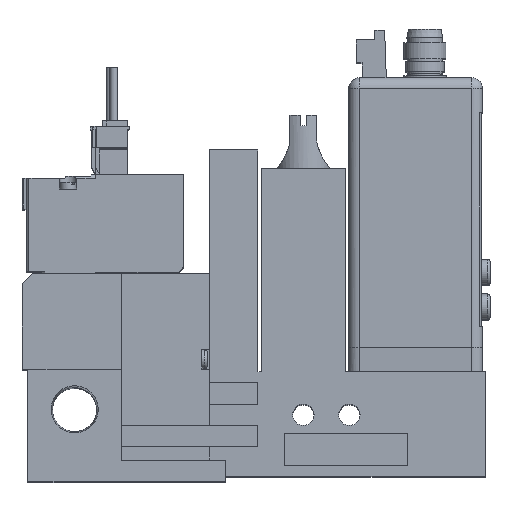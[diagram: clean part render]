
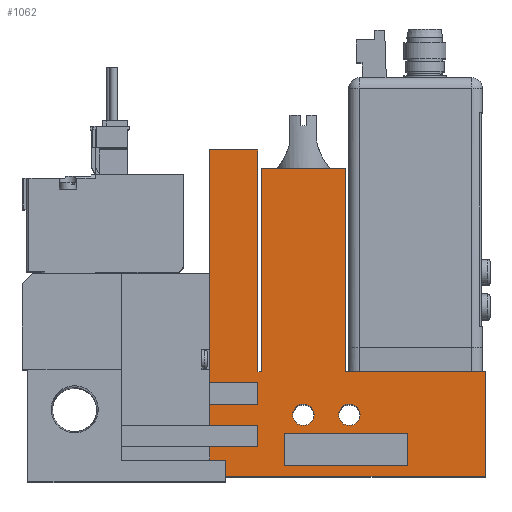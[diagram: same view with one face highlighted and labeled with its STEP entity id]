
A CAD part, top view. The second image highlights one B-rep face of the part: STEP entity #1062.
In plain terms, the highlighted planar face has unit normal (0, 0, 1).
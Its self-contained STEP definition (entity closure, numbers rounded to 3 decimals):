
#1062=ADVANCED_FACE('',(#4292,#4293,#4294,#4295),#4296,.T.);
#4292=FACE_OUTER_BOUND('',#10941,.T.);
#4293=FACE_BOUND('',#10942,.T.);
#4294=FACE_BOUND('',#10943,.T.);
#4295=FACE_BOUND('',#10944,.T.);
#4296=PLANE('',#10945);
#10941=EDGE_LOOP('',(#19580,#19581,#19582,#19583,#19584,#19585,#19586,#19587,#19588,#19589,#19590,#19591,#19592,#19593,#19594,#19595,#19596,#19597));
#10942=EDGE_LOOP('',(#19598,#19599,#19600,#19601));
#10943=EDGE_LOOP('',(#19602));
#10944=EDGE_LOOP('',(#19603));
#10945=AXIS2_PLACEMENT_3D('',#19604,#19605,#19606);
#19580=ORIENTED_EDGE('',*,*,#40541,.T.);
#19581=ORIENTED_EDGE('',*,*,#40665,.T.);
#19582=ORIENTED_EDGE('',*,*,#40639,.T.);
#19583=ORIENTED_EDGE('',*,*,#40666,.T.);
#19584=ORIENTED_EDGE('',*,*,#40613,.T.);
#19585=ORIENTED_EDGE('',*,*,#40649,.T.);
#19586=ORIENTED_EDGE('',*,*,#40476,.T.);
#19587=ORIENTED_EDGE('',*,*,#40656,.T.);
#19588=ORIENTED_EDGE('',*,*,#40557,.T.);
#19589=ORIENTED_EDGE('',*,*,#40514,.T.);
#19590=ORIENTED_EDGE('',*,*,#40622,.T.);
#19591=ORIENTED_EDGE('',*,*,#40624,.T.);
#19592=ORIENTED_EDGE('',*,*,#40577,.T.);
#19593=ORIENTED_EDGE('',*,*,#40574,.T.);
#19594=ORIENTED_EDGE('',*,*,#40581,.T.);
#19595=ORIENTED_EDGE('',*,*,#40627,.T.);
#19596=ORIENTED_EDGE('',*,*,#40667,.T.);
#19597=ORIENTED_EDGE('',*,*,#40644,.T.);
#19598=ORIENTED_EDGE('',*,*,#40584,.T.);
#19599=ORIENTED_EDGE('',*,*,#40546,.T.);
#19600=ORIENTED_EDGE('',*,*,#40659,.T.);
#19601=ORIENTED_EDGE('',*,*,#40619,.T.);
#19602=ORIENTED_EDGE('',*,*,#40616,.T.);
#19603=ORIENTED_EDGE('',*,*,#40551,.T.);
#19604=CARTESIAN_POINT('',(0.0,0.0,10.0));
#19605=DIRECTION('',(0.0,0.0,1.0));
#19606=DIRECTION('',(1.0,0.0,0.0));
#40476=EDGE_CURVE('',#48894,#48899,#48901,.T.);
#40514=EDGE_CURVE('',#48973,#48971,#48974,.T.);
#40541=EDGE_CURVE('',#49025,#49023,#49026,.T.);
#40546=EDGE_CURVE('',#49028,#49033,#49035,.T.);
#40551=EDGE_CURVE('',#49043,#49043,#49044,.T.);
#40557=EDGE_CURVE('',#49051,#48973,#49054,.T.);
#40574=EDGE_CURVE('',#49082,#49080,#49083,.T.);
#40577=EDGE_CURVE('',#49087,#49082,#49088,.T.);
#40581=EDGE_CURVE('',#49080,#49092,#49094,.T.);
#40584=EDGE_CURVE('',#49095,#49028,#49099,.T.);
#40613=EDGE_CURVE('',#49146,#49144,#49147,.T.);
#40616=EDGE_CURVE('',#49151,#49151,#49152,.T.);
#40619=EDGE_CURVE('',#49153,#49095,#49157,.T.);
#40622=EDGE_CURVE('',#48971,#49160,#49162,.T.);
#40624=EDGE_CURVE('',#49160,#49087,#49164,.T.);
#40627=EDGE_CURVE('',#49092,#49167,#49169,.T.);
#40639=EDGE_CURVE('',#49183,#49185,#49187,.T.);
#40644=EDGE_CURVE('',#49195,#49025,#49196,.T.);
#40649=EDGE_CURVE('',#49144,#48894,#49203,.T.);
#40656=EDGE_CURVE('',#48899,#49051,#49212,.T.);
#40659=EDGE_CURVE('',#49033,#49153,#49215,.T.);
#40665=EDGE_CURVE('',#49023,#49183,#49223,.T.);
#40666=EDGE_CURVE('',#49185,#49146,#49224,.T.);
#40667=EDGE_CURVE('',#49167,#49195,#49225,.T.);
#48894=VERTEX_POINT('',#61433);
#48899=VERTEX_POINT('',#61440);
#48901=LINE('',#61443,#61444);
#48971=VERTEX_POINT('',#61544);
#48973=VERTEX_POINT('',#61547);
#48974=LINE('',#61548,#61549);
#49023=VERTEX_POINT('',#61623);
#49025=VERTEX_POINT('',#61626);
#49026=LINE('',#61627,#61628);
#49028=VERTEX_POINT('',#61631);
#49033=VERTEX_POINT('',#61638);
#49035=LINE('',#61641,#61642);
#49043=VERTEX_POINT('',#61652);
#49044=CIRCLE('',#61653,2.0);
#49051=VERTEX_POINT('',#61663);
#49054=LINE('',#61668,#61669);
#49080=VERTEX_POINT('',#61728);
#49082=VERTEX_POINT('',#61731);
#49083=LINE('',#61732,#61733);
#49087=VERTEX_POINT('',#61739);
#49088=LINE('',#61740,#61741);
#49092=VERTEX_POINT('',#61747);
#49094=LINE('',#61750,#61751);
#49095=VERTEX_POINT('',#61752);
#49099=LINE('',#61758,#61759);
#49144=VERTEX_POINT('',#61823);
#49146=VERTEX_POINT('',#61826);
#49147=LINE('',#61827,#61828);
#49151=VERTEX_POINT('',#61833);
#49152=CIRCLE('',#61834,2.0);
#49153=VERTEX_POINT('',#61835);
#49157=LINE('',#61841,#61842);
#49160=VERTEX_POINT('',#61846);
#49162=LINE('',#61849,#61850);
#49164=LINE('',#61853,#61854);
#49167=VERTEX_POINT('',#61858);
#49169=LINE('',#61861,#61862);
#49183=VERTEX_POINT('',#61885);
#49185=VERTEX_POINT('',#61888);
#49187=LINE('',#61891,#61892);
#49195=VERTEX_POINT('',#61903);
#49196=LINE('',#61904,#61905);
#49203=LINE('',#61916,#61917);
#49212=LINE('',#61932,#61933);
#49215=LINE('',#61938,#61939);
#49223=LINE('',#61952,#61953);
#49224=LINE('',#61954,#61955);
#49225=LINE('',#61956,#61957);
#61433=CARTESIAN_POINT('',(44.1,9.5,10.0));
#61440=CARTESIAN_POINT('',(44.1,5.5,10.0));
#61443=CARTESIAN_POINT('',(44.1,0.0,10.0));
#61444=VECTOR('',#79116,1.0);
#61544=CARTESIAN_POINT('',(86.6,0.0,10.0));
#61547=CARTESIAN_POINT('',(35.1,0.0,10.0));
#61548=CARTESIAN_POINT('',(18.6,0.0,10.0));
#61549=VECTOR('',#79166,1.0);
#61623=CARTESIAN_POINT('',(35.1,17.5,10.0));
#61626=CARTESIAN_POINT('',(35.1,61.0,10.0));
#61627=CARTESIAN_POINT('',(35.1,61.0,10.0));
#61628=VECTOR('',#79193,1.0);
#61631=CARTESIAN_POINT('',(49.1,8.0,10.0));
#61638=CARTESIAN_POINT('',(72.1,8.0,10.0));
#61641=CARTESIAN_POINT('',(0.0,8.0,10.0));
#61642=VECTOR('',#79198,1.0);
#61652=CARTESIAN_POINT('',(63.2,11.5,10.0));
#61653=AXIS2_PLACEMENT_3D('',#79207,#79208,#79209);
#61663=CARTESIAN_POINT('',(35.1,5.5,10.0));
#61668=CARTESIAN_POINT('',(35.1,0.0,10.0));
#61669=VECTOR('',#79215,1.0);
#61728=CARTESIAN_POINT('',(44.75,57.5,10.0));
#61731=CARTESIAN_POINT('',(60.45,57.5,10.0));
#61732=CARTESIAN_POINT('',(60.45,57.5,10.0));
#61733=VECTOR('',#79239,1.0);
#61739=CARTESIAN_POINT('',(60.45,19.5,10.0));
#61740=CARTESIAN_POINT('',(60.45,19.5,10.0));
#61741=VECTOR('',#79242,1.0);
#61747=CARTESIAN_POINT('',(44.75,19.5,10.0));
#61750=CARTESIAN_POINT('',(44.75,57.5,10.0));
#61751=VECTOR('',#79246,1.0);
#61752=CARTESIAN_POINT('',(49.1,2.0,10.0));
#61758=CARTESIAN_POINT('',(49.1,0.0,10.0));
#61759=VECTOR('',#79249,1.0);
#61823=CARTESIAN_POINT('',(35.1,9.5,10.0));
#61826=CARTESIAN_POINT('',(35.1,13.5,10.0));
#61827=CARTESIAN_POINT('',(35.1,0.0,10.0));
#61828=VECTOR('',#79294,1.0);
#61833=CARTESIAN_POINT('',(54.6,11.5,10.0));
#61834=AXIS2_PLACEMENT_3D('',#79299,#79300,#79301);
#61835=CARTESIAN_POINT('',(72.1,2.0,10.0));
#61841=CARTESIAN_POINT('',(0.0,2.0,10.0));
#61842=VECTOR('',#79304,1.0);
#61846=CARTESIAN_POINT('',(86.6,19.5,10.0));
#61849=CARTESIAN_POINT('',(86.6,0.0,10.0));
#61850=VECTOR('',#79307,1.0);
#61853=CARTESIAN_POINT('',(86.6,19.5,10.0));
#61854=VECTOR('',#79309,1.0);
#61858=CARTESIAN_POINT('',(44.1,19.5,10.0));
#61861=CARTESIAN_POINT('',(44.75,19.5,10.0));
#61862=VECTOR('',#79312,1.0);
#61885=CARTESIAN_POINT('',(44.1,17.5,10.0));
#61888=CARTESIAN_POINT('',(44.1,13.5,10.0));
#61891=CARTESIAN_POINT('',(44.1,0.0,10.0));
#61892=VECTOR('',#79324,1.0);
#61903=CARTESIAN_POINT('',(44.1,61.0,10.0));
#61904=CARTESIAN_POINT('',(44.1,61.0,10.0));
#61905=VECTOR('',#79331,1.0);
#61916=CARTESIAN_POINT('',(0.0,9.5,10.0));
#61917=VECTOR('',#79336,1.0);
#61932=CARTESIAN_POINT('',(0.0,5.5,10.0));
#61933=VECTOR('',#79343,1.0);
#61938=CARTESIAN_POINT('',(72.1,0.0,10.0));
#61939=VECTOR('',#79346,1.0);
#61952=CARTESIAN_POINT('',(0.0,17.5,10.0));
#61953=VECTOR('',#79352,1.0);
#61954=CARTESIAN_POINT('',(0.0,13.5,10.0));
#61955=VECTOR('',#79353,1.0);
#61956=CARTESIAN_POINT('',(44.1,19.5,10.0));
#61957=VECTOR('',#79354,1.0);
#79116=DIRECTION('',(0.0,-1.0,0.0));
#79166=DIRECTION('',(1.0,0.0,0.0));
#79193=DIRECTION('',(0.0,-1.0,0.0));
#79198=DIRECTION('',(1.0,0.0,0.0));
#79207=CARTESIAN_POINT('',(61.2,11.5,10.0));
#79208=DIRECTION('',(0.0,0.0,-1.0));
#79209=DIRECTION('',(1.0,0.0,0.0));
#79215=DIRECTION('',(0.0,-1.0,0.0));
#79239=DIRECTION('',(-1.0,0.0,0.0));
#79242=DIRECTION('',(0.0,1.0,0.0));
#79246=DIRECTION('',(0.0,-1.0,0.0));
#79249=DIRECTION('',(0.0,1.0,0.0));
#79294=DIRECTION('',(0.0,-1.0,0.0));
#79299=CARTESIAN_POINT('',(52.6,11.5,10.0));
#79300=DIRECTION('',(0.0,0.0,-1.0));
#79301=DIRECTION('',(1.0,0.0,0.0));
#79304=DIRECTION('',(-1.0,0.0,0.0));
#79307=DIRECTION('',(0.0,1.0,0.0));
#79309=DIRECTION('',(-1.0,0.0,0.0));
#79312=DIRECTION('',(-1.0,0.0,0.0));
#79324=DIRECTION('',(0.0,-1.0,0.0));
#79331=DIRECTION('',(-1.0,0.0,0.0));
#79336=DIRECTION('',(1.0,0.0,0.0));
#79343=DIRECTION('',(-1.0,0.0,0.0));
#79346=DIRECTION('',(0.0,-1.0,0.0));
#79352=DIRECTION('',(1.0,0.0,0.0));
#79353=DIRECTION('',(-1.0,0.0,0.0));
#79354=DIRECTION('',(0.0,1.0,0.0));
